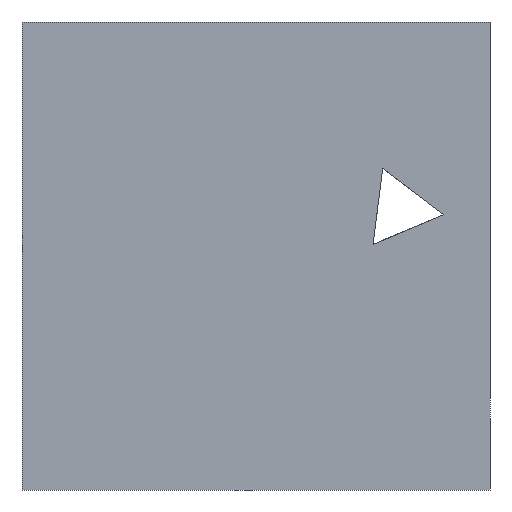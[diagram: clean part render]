
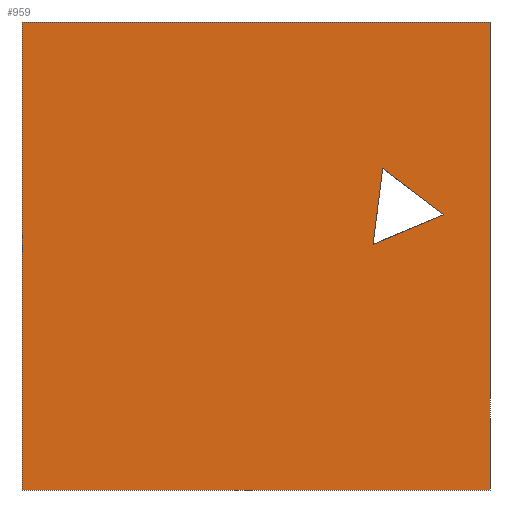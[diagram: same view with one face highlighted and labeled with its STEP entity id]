
A CAD part, left-side view. The second image highlights one B-rep face of the part: STEP entity #959.
In plain terms, the highlighted planar face has unit normal (-1, 0, 0).
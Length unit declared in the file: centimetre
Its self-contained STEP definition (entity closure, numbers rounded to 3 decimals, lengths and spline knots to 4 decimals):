
#25 = CARTESIAN_POINT ( 'NONE',  ( 0., 98.598, 588.2986 ) ) ;
#45 = VECTOR ( 'NONE', #336, 100. ) ;
#62 = CARTESIAN_POINT ( 'NONE',  ( 0., 0., 1000. ) ) ;
#83 = VERTEX_POINT ( 'NONE', #649 ) ;
#86 = CARTESIAN_POINT ( 'NONE',  ( 0., 1000., 1000. ) ) ;
#140 = LINE ( 'NONE', #968, #480 ) ;
#171 = VECTOR ( 'NONE', #1324, 100. ) ;
#178 = ORIENTED_EDGE ( 'NONE', *, *, #317, .F. ) ;
#212 = CARTESIAN_POINT ( 'NONE',  ( 0., 249.9557, 524.8506 ) ) ;
#221 = DIRECTION ( 'NONE',  ( 0., 0.126, -0.992 ) ) ;
#257 = DIRECTION ( 'NONE',  ( 1., 0., 0. ) ) ;
#289 = ORIENTED_EDGE ( 'NONE', *, *, #1244, .F. ) ;
#296 = VECTOR ( 'NONE', #724, 100. ) ;
#317 = EDGE_CURVE ( 'NONE', #858, #700, #1107, .T. ) ;
#319 = CARTESIAN_POINT ( 'NONE',  ( 0., 98.598, 588.2986 ) ) ;
#329 = ORIENTED_EDGE ( 'NONE', *, *, #901, .T. ) ;
#336 = DIRECTION ( 'NONE',  ( 0., -0.922, 0.387 ) ) ;
#356 = EDGE_LOOP ( 'NONE', ( #329, #948, #178, #1307 ) ) ;
#364 = VERTEX_POINT ( 'NONE', #819 ) ;
#371 = VERTEX_POINT ( 'NONE', #319 ) ;
#387 = VERTEX_POINT ( 'NONE', #212 ) ;
#402 = AXIS2_PLACEMENT_3D ( 'NONE', #1095, #257, #863 ) ;
#404 = LINE ( 'NONE', #1002, #296 ) ;
#427 = LINE ( 'NONE', #1165, #45 ) ;
#452 = FACE_BOUND ( 'NONE', #704, .T. ) ;
#480 = VECTOR ( 'NONE', #221, 100. ) ;
#532 = VERTEX_POINT ( 'NONE', #1028 ) ;
#576 = CARTESIAN_POINT ( 'NONE',  ( 0., 1000., 1000. ) ) ;
#582 = EDGE_CURVE ( 'NONE', #83, #387, #140, .T. ) ;
#595 = LINE ( 'NONE', #897, #989 ) ;
#649 = CARTESIAN_POINT ( 'NONE',  ( 0., 229.2243, 687.6542 ) ) ;
#690 = LINE ( 'NONE', #86, #171 ) ;
#700 = VERTEX_POINT ( 'NONE', #62 ) ;
#704 = EDGE_LOOP ( 'NONE', ( #289, #1277, #1103 ) ) ;
#722 = VECTOR ( 'NONE', #1062, 100. ) ;
#724 = DIRECTION ( 'NONE',  ( 0., 0., -1. ) ) ;
#740 = VECTOR ( 'NONE', #1001, 100. ) ;
#759 = FACE_OUTER_BOUND ( 'NONE', #356, .T. ) ;
#819 = CARTESIAN_POINT ( 'NONE',  ( 0., 0., 0. ) ) ;
#845 = LINE ( 'NONE', #25, #722 ) ;
#858 = VERTEX_POINT ( 'NONE', #1329 ) ;
#863 = DIRECTION ( 'NONE',  ( 0., 0., -1. ) ) ;
#867 = EDGE_CURVE ( 'NONE', #858, #532, #690, .T. ) ;
#897 = CARTESIAN_POINT ( 'NONE',  ( 0., 1000., 0. ) ) ;
#901 = EDGE_CURVE ( 'NONE', #532, #364, #595, .T. ) ;
#948 = ORIENTED_EDGE ( 'NONE', *, *, #1043, .F. ) ;
#959 = ADVANCED_FACE ( 'NONE', ( #452, #759 ), #1189, .F. ) ;
#968 = CARTESIAN_POINT ( 'NONE',  ( 0., 229.2243, 687.6542 ) ) ;
#989 = VECTOR ( 'NONE', #1335, 100. ) ;
#1001 = DIRECTION ( 'NONE',  ( 0., -1., 0. ) ) ;
#1002 = CARTESIAN_POINT ( 'NONE',  ( 0., 0., 1000. ) ) ;
#1028 = CARTESIAN_POINT ( 'NONE',  ( 0., 1000., 0. ) ) ;
#1043 = EDGE_CURVE ( 'NONE', #700, #364, #404, .T. ) ;
#1062 = DIRECTION ( 'NONE',  ( 0., 0.796, 0.605 ) ) ;
#1095 = CARTESIAN_POINT ( 'NONE',  ( 0., 1000., 1000. ) ) ;
#1103 = ORIENTED_EDGE ( 'NONE', *, *, #1226, .F. ) ;
#1107 = LINE ( 'NONE', #576, #740 ) ;
#1165 = CARTESIAN_POINT ( 'NONE',  ( 0., 249.9557, 524.8506 ) ) ;
#1189 = PLANE ( 'NONE',  #402 ) ;
#1226 = EDGE_CURVE ( 'NONE', #371, #83, #845, .T. ) ;
#1244 = EDGE_CURVE ( 'NONE', #387, #371, #427, .T. ) ;
#1277 = ORIENTED_EDGE ( 'NONE', *, *, #582, .F. ) ;
#1307 = ORIENTED_EDGE ( 'NONE', *, *, #867, .T. ) ;
#1324 = DIRECTION ( 'NONE',  ( 0., 0., -1. ) ) ;
#1329 = CARTESIAN_POINT ( 'NONE',  ( 0., 1000., 1000. ) ) ;
#1335 = DIRECTION ( 'NONE',  ( 0., -1., 0. ) ) ;
